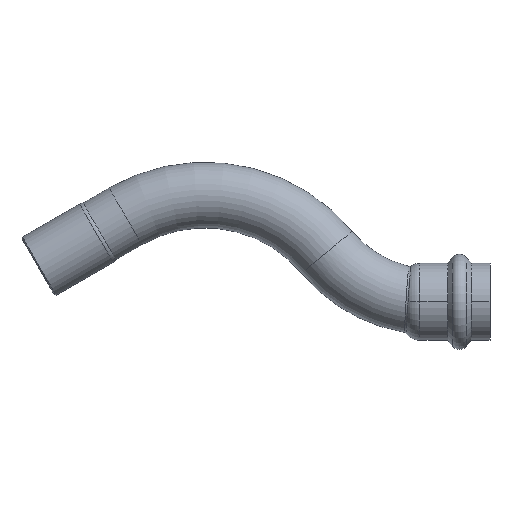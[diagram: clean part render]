
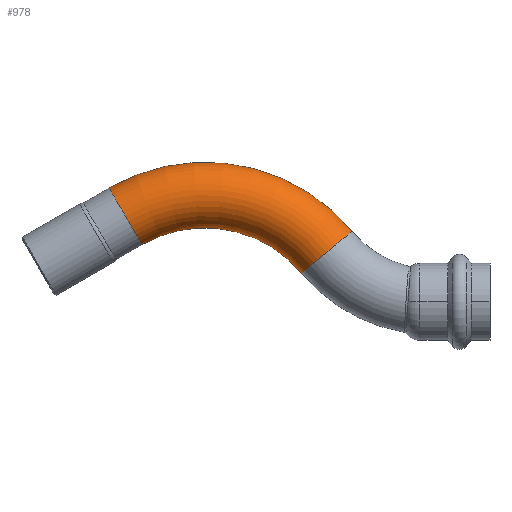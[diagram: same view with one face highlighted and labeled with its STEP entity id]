
A CAD part, top view. The second image highlights one B-rep face of the part: STEP entity #978.
In plain terms, the highlighted toroidal (fillet/blend) face has major radius 52 mm and minor radius 10.75 mm.
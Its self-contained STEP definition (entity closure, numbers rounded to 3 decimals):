
#45 = CARTESIAN_POINT ( 'NONE',  ( -53.454, 16.237, 0. ) ) ;
#110 = AXIS2_PLACEMENT_3D ( 'NONE', #1360, #1340, #1477 ) ;
#288 = DIRECTION ( 'NONE',  ( 0., 0., -1. ) ) ;
#304 = DIRECTION ( 'NONE',  ( 0.639, -0.769, 0. ) ) ;
#465 = EDGE_CURVE ( 'NONE', #906, #1678, #494, .T. ) ;
#494 = CIRCLE ( 'NONE', #1729, 10.75 ) ;
#498 = FACE_OUTER_BOUND ( 'NONE', #965, .T. ) ;
#501 = CARTESIAN_POINT ( 'NONE',  ( -93.445, -17., 0. ) ) ;
#520 = DIRECTION ( 'NONE',  ( 1., 0., 0. ) ) ;
#596 = TOROIDAL_SURFACE ( 'NONE', #110, 52., 10.75 ) ;
#656 = DIRECTION ( 'NONE',  ( 1., 0., 0. ) ) ;
#704 = CARTESIAN_POINT ( 'NONE',  ( -114.07, 18.724, 0. ) ) ;
#761 = DIRECTION ( 'NONE',  ( 0., 0., 1. ) ) ;
#776 = ORIENTED_EDGE ( 'NONE', *, *, #809, .F. ) ;
#809 = EDGE_CURVE ( 'NONE', #1250, #1678, #1835, .T. ) ;
#849 = CARTESIAN_POINT ( 'NONE',  ( -124.82, 37.343, 0. ) ) ;
#906 = VERTEX_POINT ( 'NONE', #849 ) ;
#965 = EDGE_LOOP ( 'NONE', ( #1127, #1035, #1277, #776 ) ) ;
#978 = ADVANCED_FACE ( 'NONE', ( #498 ), #596, .T. ) ;
#1035 = ORIENTED_EDGE ( 'NONE', *, *, #1863, .T. ) ;
#1055 = CARTESIAN_POINT ( 'NONE',  ( -45.186, 23.108, 0. ) ) ;
#1127 = ORIENTED_EDGE ( 'NONE', *, *, #1475, .F. ) ;
#1166 = DIRECTION ( 'NONE',  ( 0., 0., -1. ) ) ;
#1214 = CIRCLE ( 'NONE', #1641, 10.75 ) ;
#1250 = VERTEX_POINT ( 'NONE', #1336 ) ;
#1277 = ORIENTED_EDGE ( 'NONE', *, *, #465, .T. ) ;
#1336 = CARTESIAN_POINT ( 'NONE',  ( -61.721, 9.366, 0. ) ) ;
#1340 = DIRECTION ( 'NONE',  ( 0., 0., 1. ) ) ;
#1360 = CARTESIAN_POINT ( 'NONE',  ( -93.445, -17., 0. ) ) ;
#1449 = VERTEX_POINT ( 'NONE', #1055 ) ;
#1475 = EDGE_CURVE ( 'NONE', #1449, #1250, #1214, .T. ) ;
#1477 = DIRECTION ( 'NONE',  ( 1., 0., 0. ) ) ;
#1512 = CARTESIAN_POINT ( 'NONE',  ( -93.445, -17., 0. ) ) ;
#1585 = AXIS2_PLACEMENT_3D ( 'NONE', #1512, #761, #520 ) ;
#1611 = DIRECTION ( 'NONE',  ( 0., 0., 1. ) ) ;
#1618 = CIRCLE ( 'NONE', #1799, 62.75 ) ;
#1641 = AXIS2_PLACEMENT_3D ( 'NONE', #45, #304, #288 ) ;
#1678 = VERTEX_POINT ( 'NONE', #704 ) ;
#1694 = CARTESIAN_POINT ( 'NONE',  ( -119.445, 28.033, 0. ) ) ;
#1717 = DIRECTION ( 'NONE',  ( 0.866, 0.5, 0. ) ) ;
#1729 = AXIS2_PLACEMENT_3D ( 'NONE', #1694, #1717, #1166 ) ;
#1799 = AXIS2_PLACEMENT_3D ( 'NONE', #501, #1611, #656 ) ;
#1835 = CIRCLE ( 'NONE', #1585, 41.25 ) ;
#1863 = EDGE_CURVE ( 'NONE', #1449, #906, #1618, .T. ) ;
